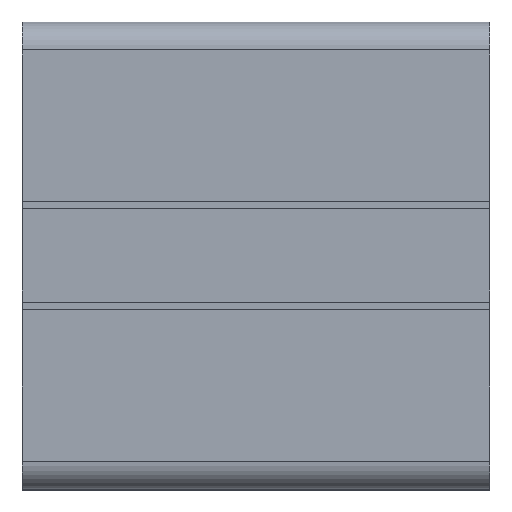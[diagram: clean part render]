
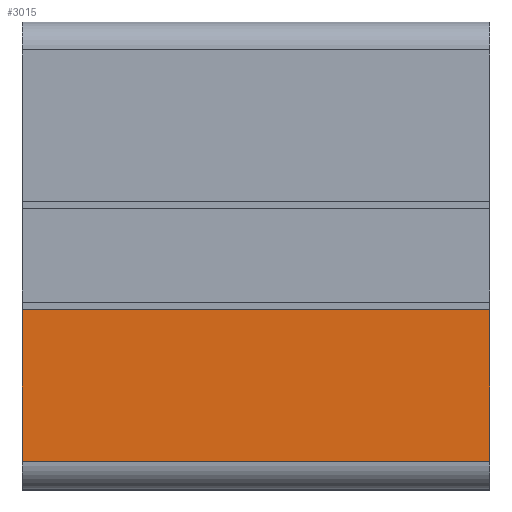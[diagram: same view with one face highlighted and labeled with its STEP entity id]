
A CAD part, top view. The second image highlights one B-rep face of the part: STEP entity #3015.
In plain terms, the highlighted planar face has unit normal (0, 0, 1).
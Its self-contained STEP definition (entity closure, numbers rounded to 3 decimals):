
#1107=EDGE_CURVE('',#3013,#1241,#3151,.T.);
#1233=EDGE_CURVE('',#1669,#2667,#3288,.T.);
#1241=VERTEX_POINT('',#3297);
#1493=EDGE_CURVE('',#1669,#1241,#3580,.T.);
#1595=EDGE_CURVE('',#2667,#3013,#3692,.T.);
#1669=VERTEX_POINT('',#3772);
#2667=VERTEX_POINT('',#4860);
#3013=VERTEX_POINT('',#5229);
#3015=ADVANCED_FACE('',(#5231),#5232,.T.);
#3151=LINE('',#5384,#5385);
#3288=LINE('',#5588,#5589);
#3297=CARTESIAN_POINT('',(50.0,-5.8,25.0));
#3580=LINE('',#5999,#6000);
#3692=LINE('',#6159,#6160);
#3772=CARTESIAN_POINT('',(0.0,-5.8,25.0));
#4860=CARTESIAN_POINT('',(0.0,-22.0,25.0));
#5229=CARTESIAN_POINT('',(50.0,-22.0,25.0));
#5231=FACE_OUTER_BOUND('',#8380,.T.);
#5232=PLANE('',#8381);
#5384=CARTESIAN_POINT('',(50.0,-5.8,25.0));
#5385=VECTOR('',#8515,1.0);
#5588=CARTESIAN_POINT('',(0.0,-5.8,25.0));
#5589=VECTOR('',#8649,1.0);
#5999=CARTESIAN_POINT('',(0.0,-5.8,25.0));
#6000=VECTOR('',#9101,1.0);
#6159=CARTESIAN_POINT('',(0.0,-22.0,25.0));
#6160=VECTOR('',#9205,1.0);
#8380=EDGE_LOOP('',(#10690,#10691,#10692,#10693));
#8381=AXIS2_PLACEMENT_3D('',#10694,#10695,#10696);
#8515=DIRECTION('',(0.0,1.0,0.0));
#8649=DIRECTION('',(0.0,-1.0,0.0));
#9101=DIRECTION('',(1.0,0.0,0.0));
#9205=DIRECTION('',(1.0,0.0,0.0));
#10690=ORIENTED_EDGE('',*,*,#1107,.T.);
#10691=ORIENTED_EDGE('',*,*,#1493,.F.);
#10692=ORIENTED_EDGE('',*,*,#1233,.T.);
#10693=ORIENTED_EDGE('',*,*,#1595,.T.);
#10694=CARTESIAN_POINT('',(0.0,-22.0,25.0));
#10695=DIRECTION('',(0.0,0.0,1.0));
#10696=DIRECTION('',(0.0,-1.0,0.0));
